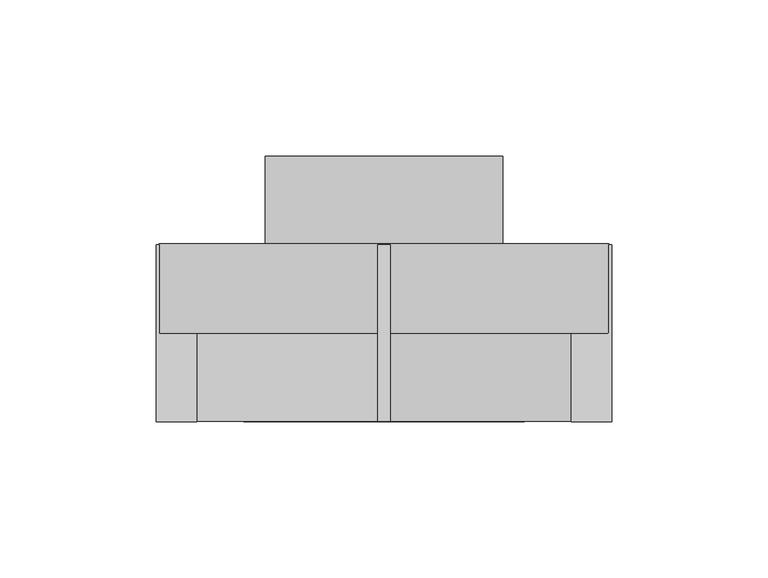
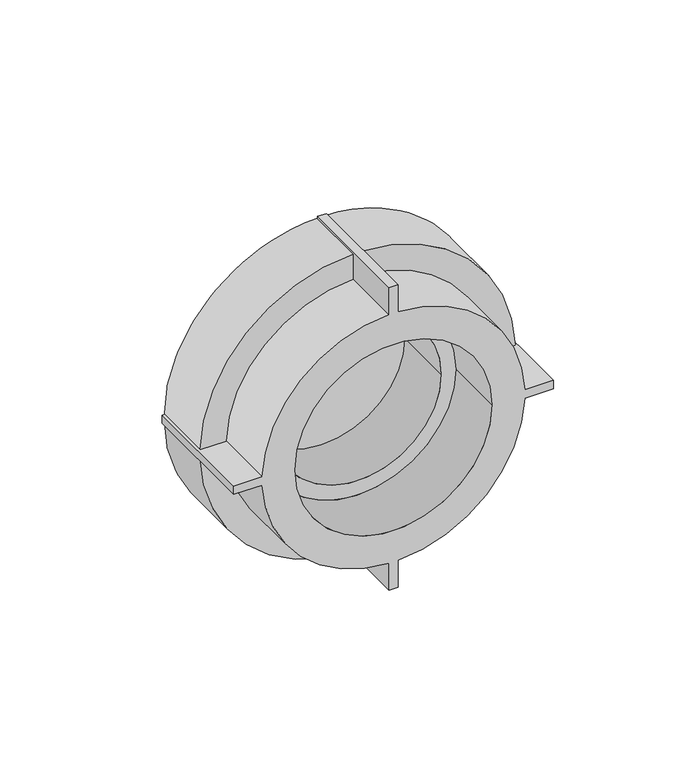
"""IFC4 building model written with IfcOpenShell, lengths in millimetres: pipe fitting geometry, EGB_VASEN_ PPR_Entronque rosca hembra WXR102 : Entronque rosca hembra WXR102."""

from ifc_helpers import new_model, si_unit, point, frame, origin, origin_2d, place, context, project, spatial, polyline, circle_curve, trimmed, segment, composite_curve, outline, extrude, source, transform, mapped, element, save
from ifc_brep_helpers import plane_surface, cylinder_surface, revolved_surface, advanced_brep


def pipe_fitting_35bced95(model_context):
    return source(origin(), model_context, "Body", "SolidModel", [
        advanced_brep(
        [(2.0, -28.3333333, 73.0), (-2.0, -28.3333333, 73.0), (-2.0, -28.3333333, 59.9666574), (-59.9666574, -28.3333333, 2.0), (-73.0, -28.3333333, 2.0), (-73.0, -28.3333333, -2.0), (-59.9666574, -28.3333333, -2.0), (-2.0, -28.3333333, -59.9666574), (-2.0, -28.3333333, -73.0), (2.0, -28.3333333, -73.0), (2.0, -28.3333333, -59.9666574), (59.9666574, -28.3333333, -2.0), (73.0, -28.3333333, -2.0), (73.0, -28.3333333, 2.0), (59.9666574, -28.3333333, 2.0), (2.0, -28.3333333, 59.9666574), (-45.0, -28.3333333, 0.0), (45.0, -28.3333333, 0.0), (-2.0, 28.3333333, 73.0), (2.0, 28.3333333, 73.0), (2.0, 28.3333333, 71.9722169), (-2.0, 28.3333333, 71.9722169), (2.0, 28.3333333, -73.0), (-2.0, 28.3333333, -73.0), (-2.0, 28.3333333, -71.9722169), (2.0, 28.3333333, -71.9722169), (73.0, 28.3333333, 2.0), (73.0, 28.3333333, -2.0), (71.9722169, 28.3333333, -2.0), (72.0, 28.3333333, 0.0), (71.9722169, 28.3333333, 2.0), (-73.0, 28.3333333, -2.0), (-73.0, 28.3333333, 2.0), (-71.9722169, 28.3333333, 2.0), (-72.0, 28.3333333, 0.0), (-71.9722169, 28.3333333, -2.0), (2.0, 0.0, 59.9666574), (2.0, 0.0, 71.9722169), (-2.0, 0.0, 71.9722169), (-2.0, 0.0, 59.9666574), (2.0, 0.0, -71.9722169), (2.0, 0.0, -59.9666574), (-2.0, 0.0, -59.9666574), (-2.0, 0.0, -71.9722169), (59.9666574, 0.0, -2.0), (71.9722169, 0.0, -2.0), (71.9722169, 0.0, 2.0), (59.9666574, 0.0, 2.0), (-71.9722169, 0.0, -2.0), (-59.9666574, 0.0, -2.0), (-59.9666574, 0.0, 2.0), (-71.9722169, 0.0, 2.0), (-45.0, 0.0, 0.0), (45.0, 0.0, 0.0), (-38.1, 0.0, 0.0), (38.1, 0.0, 0.0), (-72.0, 28.6666667, 0.0), (72.0, 28.6666667, 0.0), (-38.1, 28.6666667, 0.0), (38.1, 28.6666667, 0.0)],
        [
            (0, 1),
            (1, 2),
            (2, 3, circle_curve(frame((0.0, -28.3333333, 0.0), z_axis=(0.0, -1.0, 0.0), x_axis=(1.0, 0.0, 0.0)), 60.0)),
            (3, 4),
            (4, 5),
            (5, 6),
            (6, 7, circle_curve(frame((0.0, -28.3333333, 0.0), z_axis=(0.0, -1.0, 0.0), x_axis=(1.0, 0.0, 0.0)), 60.0)),
            (7, 8),
            (8, 9),
            (9, 10),
            (10, 11, circle_curve(frame((0.0, -28.3333333, 0.0), z_axis=(0.0, -1.0, 0.0), x_axis=(1.0, 0.0, 0.0)), 60.0)),
            (11, 12),
            (12, 13),
            (13, 14),
            (14, 15, circle_curve(frame((0.0, -28.3333333, 0.0), z_axis=(0.0, -1.0, 0.0), x_axis=(1.0, 0.0, 0.0)), 60.0)),
            (15, 0),
            (16, 17, circle_curve(frame((0.0, -28.3333333, 0.0), z_axis=(0.0, 1.0, 0.0), x_axis=(1.0, 0.0, 0.0)), 45.0)),
            (17, 16, circle_curve(frame((0.0, -28.3333333, 0.0), z_axis=(0.0, 1.0, 0.0), x_axis=(1.0, 0.0, 0.0)), 45.0)),
            (18, 19),
            (19, 20),
            (20, 21, circle_curve(frame((0.0, 28.3333333, 0.0), z_axis=(0.0, -1.0, 0.0), x_axis=(1.0, 0.0, 0.0)), 72.0)),
            (21, 18),
            (22, 23),
            (23, 24),
            (24, 25, circle_curve(frame((0.0, 28.3333333, 0.0), z_axis=(0.0, -1.0, 0.0), x_axis=(1.0, 0.0, 0.0)), 72.0)),
            (25, 22),
            (26, 27),
            (27, 28),
            (28, 29, circle_curve(frame((0.0, 28.3333333, 0.0), z_axis=(0.0, -1.0, 0.0), x_axis=(1.0, 0.0, 0.0)), 72.0)),
            (29, 30, circle_curve(frame((0.0, 28.3333333, 0.0), z_axis=(0.0, -1.0, 0.0), x_axis=(1.0, 0.0, 0.0)), 72.0)),
            (30, 26),
            (31, 32),
            (32, 33),
            (33, 34, circle_curve(frame((0.0, 28.3333333, 0.0), z_axis=(0.0, -1.0, 0.0), x_axis=(1.0, 0.0, 0.0)), 72.0)),
            (34, 35, circle_curve(frame((0.0, 28.3333333, 0.0), z_axis=(0.0, -1.0, 0.0), x_axis=(1.0, 0.0, 0.0)), 72.0)),
            (35, 31),
            (19, 0),
            (15, 36),
            (36, 37),
            (37, 20),
            (18, 1),
            (21, 38),
            (38, 39),
            (39, 2),
            (8, 23),
            (22, 9),
            (25, 40),
            (40, 41),
            (41, 10),
            (7, 42),
            (42, 43),
            (43, 24),
            (27, 12),
            (11, 44),
            (44, 45),
            (45, 28),
            (26, 13),
            (30, 46),
            (46, 47),
            (47, 14),
            (5, 31),
            (35, 48),
            (48, 49),
            (49, 6),
            (32, 4),
            (3, 50),
            (50, 51),
            (51, 33),
            (49, 42, circle_curve(frame((0.0, 0.0, 0.0), z_axis=(0.0, -1.0, 0.0), x_axis=(1.0, 0.0, 0.0)), 60.0)),
            (41, 44, circle_curve(frame((0.0, 0.0, 0.0), z_axis=(0.0, -1.0, 0.0), x_axis=(1.0, 0.0, 0.0)), 60.0)),
            (39, 50, circle_curve(frame((0.0, 0.0, 0.0), z_axis=(0.0, -1.0, 0.0), x_axis=(1.0, 0.0, 0.0)), 60.0)),
            (47, 36, circle_curve(frame((0.0, 0.0, 0.0), z_axis=(0.0, -1.0, 0.0), x_axis=(1.0, 0.0, 0.0)), 60.0)),
            (16, 52),
            (52, 53, circle_curve(frame((0.0, 0.0, 0.0), z_axis=(0.0, 1.0, 0.0), x_axis=(1.0, 0.0, 0.0)), 45.0)),
            (53, 17),
            (53, 52, circle_curve(frame((0.0, 0.0, 0.0), z_axis=(0.0, 1.0, 0.0), x_axis=(1.0, 0.0, 0.0)), 45.0)),
            (54, 55, circle_curve(frame((0.0, 0.0, 0.0), z_axis=(0.0, 1.0, 0.0), x_axis=(1.0, 0.0, 0.0)), 38.1)),
            (55, 54, circle_curve(frame((0.0, 0.0, 0.0), z_axis=(0.0, 1.0, 0.0), x_axis=(1.0, 0.0, 0.0)), 38.1)),
            (40, 45, circle_curve(frame((0.0, 0.0, 0.0), z_axis=(0.0, -1.0, 0.0), x_axis=(1.0, 0.0, 0.0)), 72.0)),
            (48, 43, circle_curve(frame((0.0, 0.0, 0.0), z_axis=(0.0, -1.0, 0.0), x_axis=(1.0, 0.0, 0.0)), 72.0)),
            (46, 37, circle_curve(frame((0.0, 0.0, 0.0), z_axis=(0.0, -1.0, 0.0), x_axis=(1.0, 0.0, 0.0)), 72.0)),
            (38, 51, circle_curve(frame((0.0, 0.0, 0.0), z_axis=(0.0, -1.0, 0.0), x_axis=(1.0, 0.0, 0.0)), 72.0)),
            (56, 57, circle_curve(frame((0.0, 28.6666667, 0.0), z_axis=(0.0, 1.0, 0.0), x_axis=(1.0, 0.0, 0.0)), 72.0)),
            (57, 56, circle_curve(frame((0.0, 28.6666667, 0.0), z_axis=(0.0, 1.0, 0.0), x_axis=(1.0, 0.0, 0.0)), 72.0)),
            (58, 59, circle_curve(frame((0.0, 28.6666667, 0.0), z_axis=(0.0, -1.0, 0.0), x_axis=(1.0, 0.0, 0.0)), 38.1)),
            (59, 58, circle_curve(frame((0.0, 28.6666667, 0.0), z_axis=(0.0, -1.0, 0.0), x_axis=(1.0, 0.0, 0.0)), 38.1)),
            (57, 29),
            (34, 56),
            (54, 58),
            (59, 55),
        ],
        [
            plane_surface(frame((0.0, -28.3333333, 0.0), z_axis=(0.0, -1.0, 0.0), x_axis=(0.0, 0.0, 1.0))),
            plane_surface(frame((0.0, 28.3333333, 0.0), z_axis=(0.0, 1.0, 0.0), x_axis=(0.0, 0.0, 1.0))),
            plane_surface(frame((2.0, -28.3333333, 59.0), z_axis=(1.0, 0.0, 0.0), x_axis=(0.0, 1.0, 0.0))),
            plane_surface(frame((2.0, -28.3333333, 73.0), z_axis=(0.0, 0.0, 1.0), x_axis=(0.0, 1.0, 0.0))),
            plane_surface(frame((-2.0, -28.3333333, 73.0), z_axis=(-1.0, 0.0, 0.0), x_axis=(0.0, 1.0, 0.0))),
            plane_surface(frame((-2.0, -28.3333333, -73.0), z_axis=(0.0, 0.0, -1.0), x_axis=(0.0, 1.0, 0.0))),
            plane_surface(frame((2.0, -28.3333333, -73.0), z_axis=(1.0, 0.0, 0.0), x_axis=(0.0, 1.0, 0.0))),
            plane_surface(frame((-2.0, -28.3333333, -59.0), z_axis=(-1.0, 0.0, 0.0), x_axis=(0.0, 1.0, 0.0))),
            plane_surface(frame((59.0, -28.3333333, -2.0), z_axis=(0.0, 0.0, -1.0), x_axis=(0.0, 1.0, 0.0))),
            plane_surface(frame((73.0, -28.3333333, -2.0), z_axis=(1.0, 0.0, 0.0), x_axis=(0.0, 1.0, 0.0))),
            plane_surface(frame((73.0, -28.3333333, 2.0), z_axis=(0.0, 0.0, 1.0), x_axis=(0.0, 1.0, 0.0))),
            plane_surface(frame((-73.0, -28.3333333, -2.0), z_axis=(0.0, 0.0, -1.0), x_axis=(0.0, 1.0, 0.0))),
            plane_surface(frame((-59.0, -28.3333333, 2.0), z_axis=(0.0, 0.0, 1.0), x_axis=(0.0, 1.0, 0.0))),
            plane_surface(frame((-73.0, -28.3333333, 2.0), z_axis=(-1.0, 0.0, 0.0), x_axis=(0.0, 1.0, 0.0))),
            cylinder_surface(frame((0.0, 0.0, 0.0), z_axis=(0.0, -1.0, 0.0), x_axis=(1.0, 0.0, 0.0)), 60.0),
            revolved_surface(polyline([(45.0, 0.0, 0.0), (45.0, -28.3333333, 0.0)]), (0.0, 0.0, 0.0), (0.0, 1.0, 0.0)),
            plane_surface(frame((72.0, 0.0, 0.0), z_axis=(0.0, -1.0, 0.0), x_axis=(0.0, 0.0, 1.0))),
            plane_surface(frame((72.0, 28.6666667, 0.0), z_axis=(0.0, 1.0, 0.0), x_axis=(0.0, 0.0, -1.0))),
            cylinder_surface(frame((0.0, 28.6666667, 0.0), z_axis=(0.0, -1.0, 0.0), x_axis=(1.0, 0.0, 0.0)), 72.0),
            revolved_surface(polyline([(38.1, 28.6666667, 0.0), (38.1, 0.0, 0.0)]), (0.0, 0.0, 0.0), (0.0, 1.0, 0.0)),
        ],
        [
            (0, [[1, 2, 3, 4, 5, 6, 7, 8, 9, 10, 11, 12, 13, 14, 15, 16], [17, 18]]),
            (1, [[19, 20, 21, 22]]),
            (1, [[23, 24, 25, 26]]),
            (1, [[27, 28, 29, 30, 31]]),
            (1, [[32, 33, 34, 35, 36]]),
            (2, [[37, -16, 38, 39, 40, -20]]),
            (3, [[-1, -37, -19, 41]]),
            (4, [[-41, -22, 42, 43, 44, -2]]),
            (5, [[-9, 45, -23, 46]]),
            (6, [[-46, -26, 47, 48, 49, -10]]),
            (7, [[-45, -8, 50, 51, 52, -24]]),
            (8, [[53, -12, 54, 55, 56, -28]]),
            (9, [[-13, -53, -27, 57]]),
            (10, [[-57, -31, 58, 59, 60, -14]]),
            (11, [[61, -36, 62, 63, 64, -6]]),
            (12, [[65, -4, 66, 67, 68, -33]]),
            (13, [[-5, -65, -32, -61]]),
            (14, [[-7, -64, 69, -50]]),
            (14, [[-11, -49, 70, -54]]),
            (14, [[-3, -44, 71, -66]]),
            (14, [[-15, -60, 72, -38]]),
            (15, [[-17, 73, 74, 75]]),
            (15, [[-18, -75, 76, -73]]),
            (16, [[-74, -76], [77, 78]]),
            (16, [[79, -55, -70, -48]]),
            (16, [[80, -51, -69, -63]]),
            (16, [[81, -39, -72, -59]]),
            (16, [[82, -67, -71, -43]]),
            (17, [[83, 84], [85, 86]]),
            (18, [[-84, 87, -29, -56, -79, -47, -25, -52, -80, -62, -35, 88]]),
            (18, [[-83, -88, -34, -68, -82, -42, -21, -40, -81, -58, -30, -87]]),
            (19, [[-77, 89, -86, 90]]),
            (19, [[-78, -90, -85, -89]]),
        ],
    ),
        extrude(outline(composite_curve([segment(trimmed(circle_curve(origin_2d(), 38.1), [point((0.0, -38.1))], [point((0.0, 38.1))], False, "CARTESIAN"), True, "CONTINUOUS"), segment(trimmed(circle_curve(origin_2d(), 38.1), [point((0.0, 38.1))], [point((0.0, -38.1))], False, "CARTESIAN"), True, "CONTINUOUS")], self_intersect=False)), frame((0.0, 28.3333333, 0.0), z_axis=(0.0, 1.0, 0.0), x_axis=(0.0, 0.0, 1.0)), (0.0, 0.0, 1.0), 28.3333333),
    ])


if __name__ == "__main__":
    model = new_model("IFC4")
    model_context = context("Model", 3, world=origin())
    ifc_project = project(units=[si_unit("LENGTHUNIT", "METRE", prefix="MILLI")], contexts=[model_context])
    site = spatial("IfcSite", under=ifc_project)
    building = spatial("IfcBuilding", under=site)
    placement = place(None, origin())
    pipe_fitting_shape = pipe_fitting_35bced95(model_context)
    element("IfcPipeFitting", 1, ObjectType="EGB_VASEN_ PPR_Entronque rosca hembra WXR102 : Entronque rosca hembra WXR102", at=placement, inside=building, context=model_context, shape_type="MappedRepresentation", body=[
        mapped(pipe_fitting_shape, transform((0.0, 0.0, 0.0), x_axis=(1.0, 0.0, 0.0), y_axis=(0.0, 1.0, 0.0), z_axis=(0.0, 0.0, 1.0))),
    ])
    save(model, "model.ifc")
